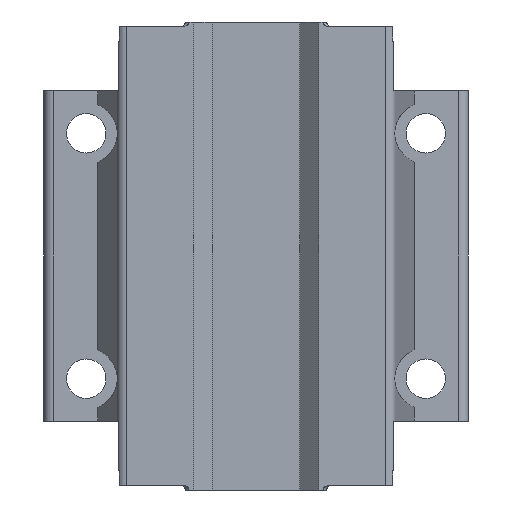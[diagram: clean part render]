
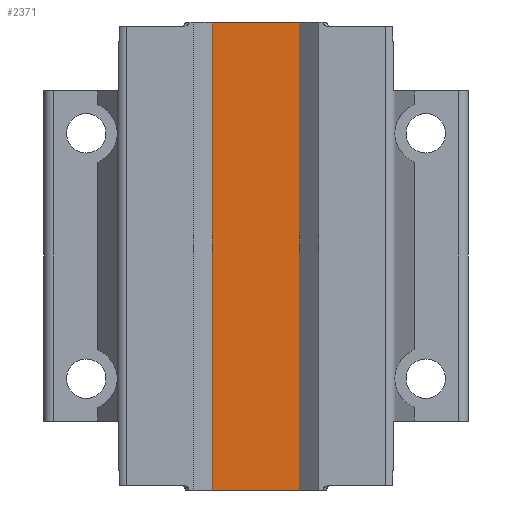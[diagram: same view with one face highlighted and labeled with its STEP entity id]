
A CAD part, front view. The second image highlights one B-rep face of the part: STEP entity #2371.
In plain terms, the highlighted planar face has unit normal (0, -1, 0).
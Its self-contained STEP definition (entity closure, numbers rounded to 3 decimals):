
#125=PLANE('',#2587);
#349=FACE_OUTER_BOUND('',#475,.T.);
#475=EDGE_LOOP('',(#2232,#2233,#2234,#2235));
#596=LINE('',#3535,#846);
#618=LINE('',#3611,#868);
#725=LINE('',#3937,#975);
#726=LINE('',#3939,#976);
#846=VECTOR('',#2846,10.);
#868=VECTOR('',#2924,10.);
#975=VECTOR('',#3221,10.);
#976=VECTOR('',#3224,10.);
#1140=VERTEX_POINT('',#3532);
#1141=VERTEX_POINT('',#3534);
#1166=VERTEX_POINT('',#3608);
#1167=VERTEX_POINT('',#3610);
#1396=EDGE_CURVE('',#1141,#1140,#596,.T.);
#1434=EDGE_CURVE('',#1166,#1167,#618,.T.);
#1579=EDGE_CURVE('',#1166,#1141,#725,.T.);
#1580=EDGE_CURVE('',#1167,#1140,#726,.T.);
#2232=ORIENTED_EDGE('',*,*,#1579,.T.);
#2233=ORIENTED_EDGE('',*,*,#1396,.T.);
#2234=ORIENTED_EDGE('',*,*,#1580,.F.);
#2235=ORIENTED_EDGE('',*,*,#1434,.F.);
#2371=ADVANCED_FACE('',(#349),#125,.T.);
#2587=AXIS2_PLACEMENT_3D('',#3938,#3222,#3223);
#2846=DIRECTION('',(-1.,0.,0.));
#2924=DIRECTION('',(-1.,0.,0.));
#3221=DIRECTION('',(0.,0.,1.));
#3222=DIRECTION('center_axis',(0.,-1.,0.));
#3223=DIRECTION('ref_axis',(1.,0.,0.));
#3224=DIRECTION('',(0.,0.,1.));
#3532=CARTESIAN_POINT('',(-11.35,26.,49.6));
#3534=CARTESIAN_POINT('',(11.35,26.,49.6));
#3535=CARTESIAN_POINT('',(11.35,26.,49.6));
#3608=CARTESIAN_POINT('',(11.35,26.,-49.6));
#3610=CARTESIAN_POINT('',(-11.35,26.,-49.6));
#3611=CARTESIAN_POINT('',(11.35,26.,-49.6));
#3937=CARTESIAN_POINT('',(11.35,26.,0.));
#3938=CARTESIAN_POINT('Origin',(-11.35,26.,0.));
#3939=CARTESIAN_POINT('',(-11.35,26.,0.));
